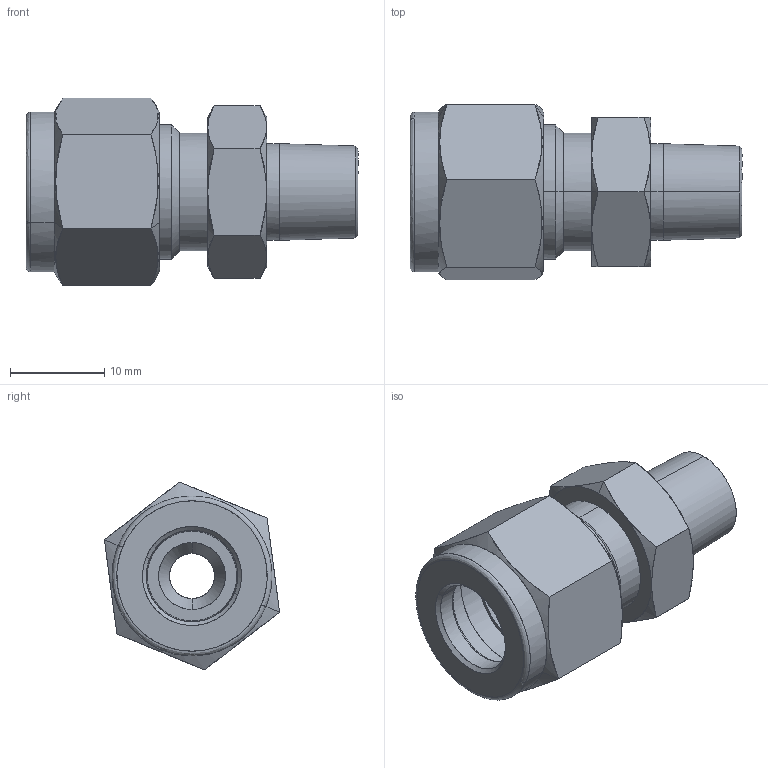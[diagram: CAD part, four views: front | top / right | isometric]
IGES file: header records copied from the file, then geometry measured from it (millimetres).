
Start section: Comment
Global section: file name: SMC6-2N.igs; native system:  By UGS Corp.; preprocessor: XPlus GENERIC/IGES 3.0; author: Author; organization: Title; date: 20100113.154908; units: millimetre
Bounding box: 35.3 x 18.64 x 19.99 mm (x, y, z)
Surface area: 3785.2 mm2 (no closed solid volume)
Topology: 0 solids, 0 shells, 84 faces, 370 edges, 370 vertices
Faces by surface type: bspline 84
